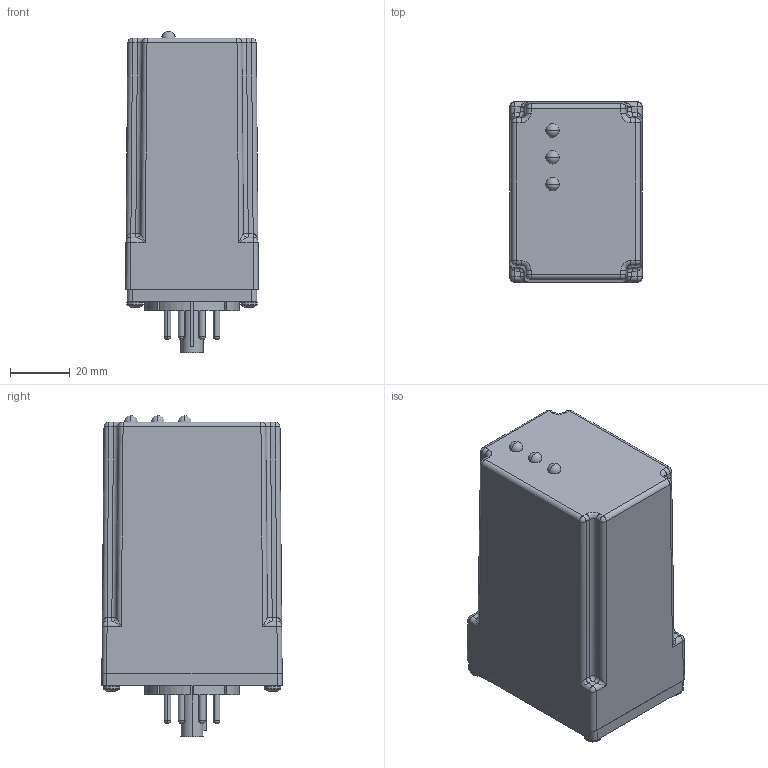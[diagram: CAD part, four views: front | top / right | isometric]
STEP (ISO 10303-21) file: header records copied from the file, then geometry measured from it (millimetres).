
FILE_DESCRIPTION (( 'STEP AP214' ), '1' );
FILE_NAME ('ATP wo-Switch.STEP', '2019-07-02T01:08:15', ( '' ), ( '' ), 'SwSTEP 2.0', 'SolidWorks 2019', '' );
FILE_SCHEMA (( 'AUTOMOTIVE_DESIGN' ));
Length unit declared in the file: millimetre
Products named in the file (1): ATP wo-Switch
Bounding box: 44.45 x 60.33 x 107.47 mm (x, y, z)
Volume: 226160.8 mm3; surface area: 30919.8 mm2
Topology: 17 solids, 17 shells, 687 faces, 1819 edges, 1157 vertices
Faces by surface type: cylinder 280, plane 219, bspline 114, cone 40, sphere 34
Entity records: 37083 total; most frequent: CARTESIAN_POINT 16516, ORIENTED_EDGE 3518, DIRECTION 2595, EDGE_CURVE 1759, VERTEX_POINT 1135, AXIS2_PLACEMENT_3D 914, VECTOR 767, LINE 767
